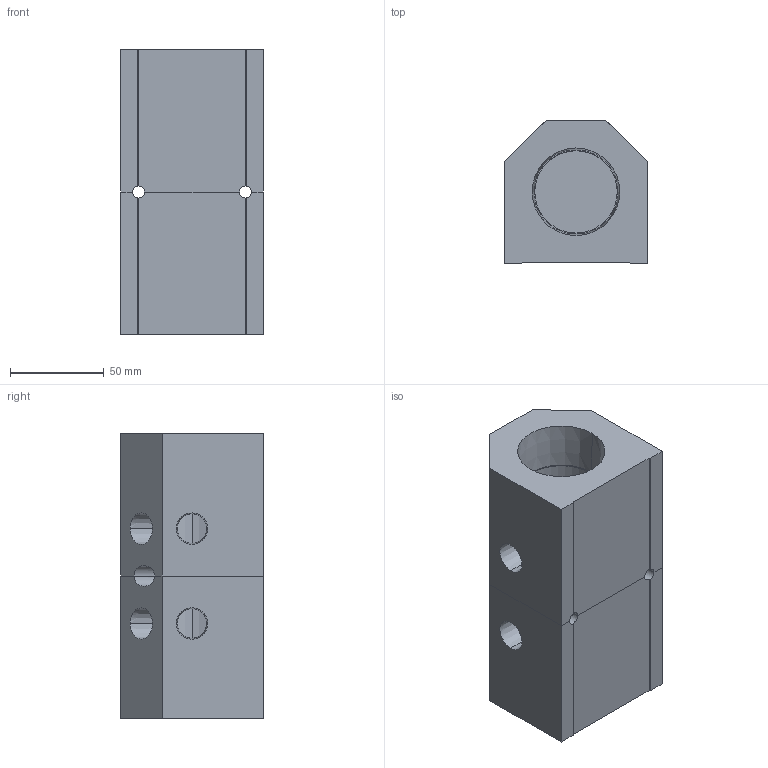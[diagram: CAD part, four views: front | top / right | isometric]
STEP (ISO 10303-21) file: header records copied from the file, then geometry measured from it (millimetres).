
FILE_DESCRIPTION (( 'STEP AP214' ), '1' );
FILE_NAME ('ALM2ABC-N6N24-152RB.step', '2022-02-07T09:15:47', ( '' ), ( '' ), 'SwSTEP 2.0', 'SolidWorks 2020', '' );
FILE_SCHEMA (( 'AUTOMOTIVE_DESIGN' ));
Length unit declared in the file: millimetre
Products named in the file (1): ALM2ABC-N6N24-152RB
Bounding box: 76.2 x 76.2 x 152 mm (x, y, z)
Volume: 542816.1 mm3; surface area: 87942.6 mm2
Topology: 2 solids, 2 shells, 350 faces, 924 edges, 614 vertices
Faces by surface type: plane 247, bspline 71, cylinder 16, cone 16
Entity records: 18996 total; most frequent: CARTESIAN_POINT 7562, ORIENTED_EDGE 1848, DIRECTION 1368, EDGE_CURVE 924, VECTOR 712, LINE 712, VERTEX_POINT 614, EDGE_LOOP 398
